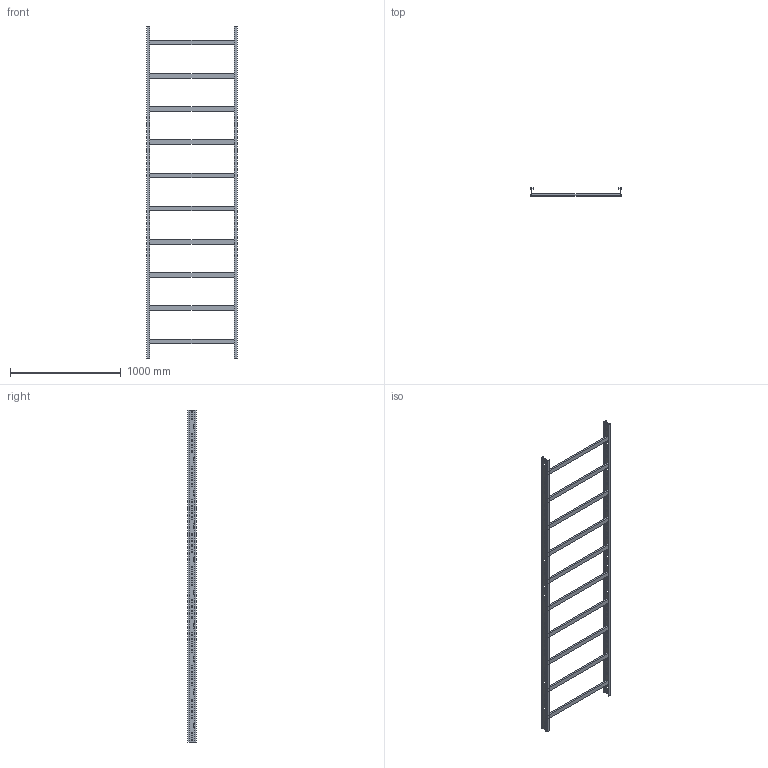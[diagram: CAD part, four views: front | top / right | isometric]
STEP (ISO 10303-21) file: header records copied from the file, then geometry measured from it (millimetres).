
FILE_DESCRIPTION (( 'STEP AP214' ), '1' );
FILE_NAME ('01S3C800.step', '2025-02-21T16:21:16', ( '' ), ( '' ), 'SwSTEP 2.0', 'SolidWorks 2023', '' );
FILE_SCHEMA (( 'AUTOMOTIVE_DESIGN' ));
Length unit declared in the file: millimetre
Products named in the file (3): LONGH.H75; 01S3C800; TRAVERSINO_800
Assembly tree (12 placements, depth 2):
  01S3C800
    LONGH.H75  x2
    TRAVERSINO_800  x10
Bounding box: 818 x 75 x 3000 mm (x, y, z)
Volume: 9385200 mm3; surface area: 2436701 mm2
Topology: 12 solids, 12 shells, 408 faces, 1152 edges, 768 vertices
Faces by surface type: plane 408
Entity records: 6180 total; most frequent: CARTESIAN_POINT 1075, ORIENTED_EDGE 1056, DIRECTION 918, LINE 528, EDGE_CURVE 528, VECTOR 528, VERTEX_POINT 352, EDGE_LOOP 260
